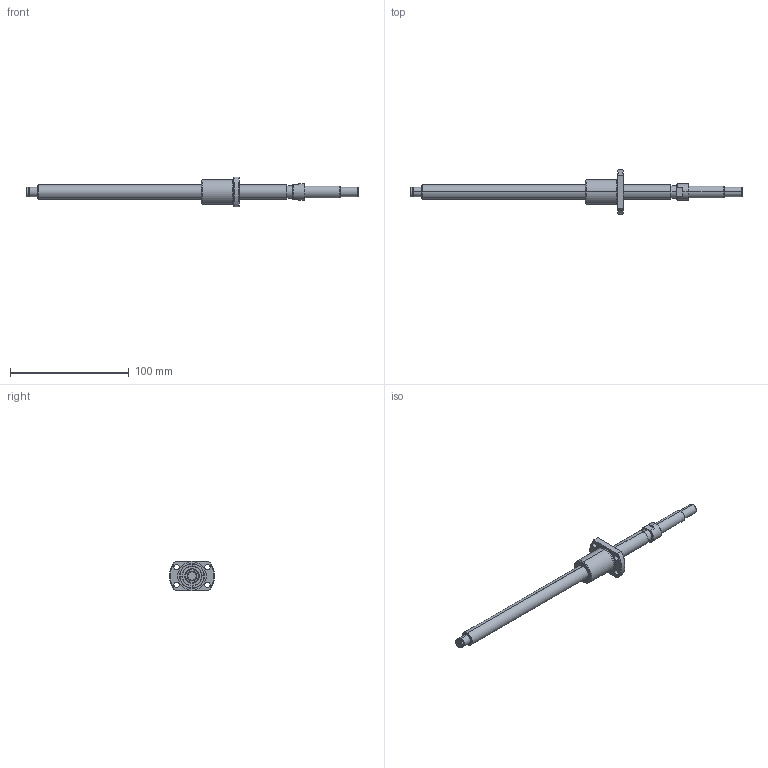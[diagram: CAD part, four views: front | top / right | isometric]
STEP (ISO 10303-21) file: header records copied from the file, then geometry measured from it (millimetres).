
FILE_DESCRIPTION (( 'STEP AP214' ), '1' );
FILE_NAME ('BS1202.5K-3D.STEP', '2014-03-05T15:11:53', ( '' ), ( '' ), 'SwSTEP 2.0', 'SolidWorks 2012', '' );
FILE_SCHEMA (( 'AUTOMOTIVE_DESIGN' ));
Length unit declared in the file: millimetre
Products named in the file (3): BS1202.5Kナット; BS1202.5K軸; BS1202.5K-3D
Assembly tree (2 placements, depth 2):
  BS1202.5K-3D
    BS1202.5K軸
    BS1202.5Kナット
Bounding box: 280 x 37.88 x 25 mm (x, y, z)
Volume: 57020.2 mm3; surface area: 23901.9 mm2
Topology: 5 solids, 5 shells, 102 faces, 220 edges, 140 vertices
Faces by surface type: cylinder 48, plane 28, cone 26
Entity records: 2987 total; most frequent: DIRECTION 548, CARTESIAN_POINT 503, ORIENTED_EDGE 440, AXIS2_PLACEMENT_3D 233, EDGE_CURVE 220, VERTEX_POINT 140, EDGE_LOOP 128, CIRCLE 126
